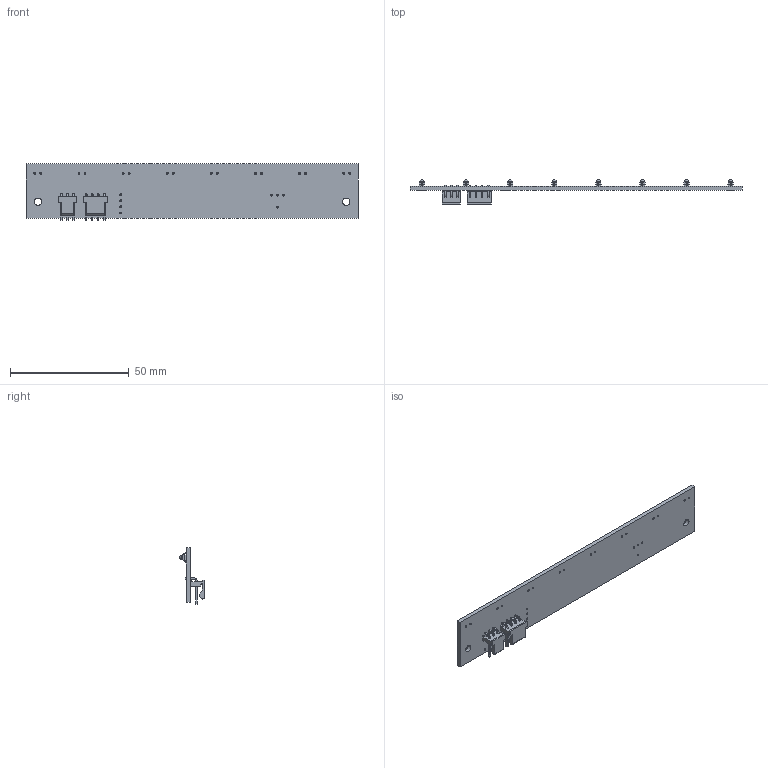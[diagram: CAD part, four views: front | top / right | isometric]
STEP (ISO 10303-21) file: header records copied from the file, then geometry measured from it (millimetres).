
FILE_DESCRIPTION(/* description */ (''),/* implementation_level */ '2;1');
FILE_NAME(/* name */ 'C:\Users\Andrea\SynologyDrive\Optoscan\Libreria Componenti\EOS\01 - Barriere EOS\EOS 140\Eos_4-140\Esportazioni\EOS 4-140 MMPe_RX.stp',/* time_stamp */ '2024-05-07T10:56:00+02:00',/* author */ ('Andrea'),/* organization */ (''),/* preprocessor_version */ 'ST-DEVELOPER v19',/* originating_system */ 'Autodesk Inventor 2023',/* authorisation */ '');
FILE_SCHEMA (('AUTOMOTIVE_DESIGN { 1 0 10303 214 3 1 1 }'));
Length unit declared in the file: millimetre
Products named in the file (1): Eos 4-140 MMPe_RX_Semplifica_1
Bounding box: 139.98 x 10.32 x 23.74 mm (x, y, z)
Volume: 5656 mm3; surface area: 8041.2 mm2
Topology: 1 solids, 1 shells, 749 faces, 2129 edges, 1406 vertices
Faces by surface type: plane 580, cylinder 153, sphere 8, cone 8
Full cylindrical faces by diameter (mm): 0.8 x31, 1.8 x8, 3.1 x2
Entity records: 25191 total; most frequent: CARTESIAN_POINT 4285, ORIENTED_EDGE 4258, DIRECTION 3943, EDGE_CURVE 2129, LINE 1815, VECTOR 1815, VERTEX_POINT 1406, AXIS2_PLACEMENT_3D 1064
